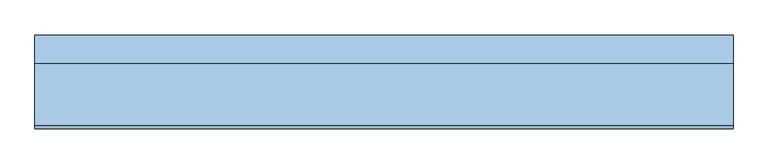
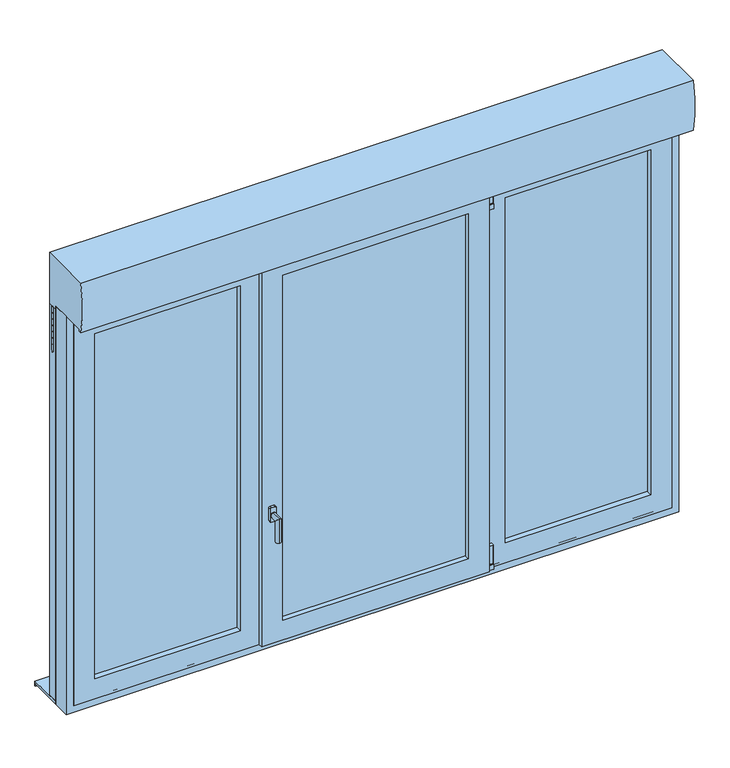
"""IFC4 building model written with IfcOpenShell, lengths in millimetres: window geometry, 8. OF1 + 2 Fixes à G et à D PVC-ALU : OF3 260X165 (LXH) cm + PB."""

from ifc_helpers import new_model, si_unit, point, frame, frame_2d, origin, place, context, project, spatial, polyline, circle_curve, ellipse_curve, trimmed, segment, composite_curve, outline, extrude, faceted_brep, source, transform, mapped, element, save
from ifc_brep_helpers import plane_surface, cylinder_surface, advanced_brep


def window_cf888731(model_context):
    return source(origin(), model_context, "Body", "SolidModel", [
        extrude(outline(composite_curve([segment(polyline([(2401.552, 450.596), (2401.552, 465.596), (2419.5583831, 465.596)]), True, "CONTINUOUS"), segment(trimmed(circle_curve(frame_2d((2419.5583831, 463.6023831)), 1.9936169), [point((2419.5583831, 465.596))], [point((2421.552, 463.6023831))], False, "CARTESIAN"), True, "CONTINUOUS"), segment(polyline([(2421.552, 463.6023831), (2421.552, 452.5636754)]), True, "CONTINUOUS"), segment(trimmed(circle_curve(frame_2d((2419.5843246, 452.5636754)), 1.9676754), [point((2421.552, 452.5636754))], [point((2419.5843246, 450.596))], False, "CARTESIAN"), True, "CONTINUOUS"), segment(polyline([(2419.5843246, 450.596), (2401.552, 450.596)]), True, "CONTINUOUS")], self_intersect=False)), frame((0.0, -115.881543, 0.0), z_axis=(0.0, 1.0, 0.0), x_axis=(0.0, 0.0, 1.0)), (0.0, 0.0, 1.0), 15.0),
        extrude(outline(composite_curve([segment(trimmed(circle_curve(frame_2d((458.3165562, -108.3911314)), 5.0), [point((453.3165562, -108.3911314))], [point((463.3165562, -108.3911314))], False, "CARTESIAN"), True, "CONTINUOUS"), segment(trimmed(circle_curve(frame_2d((458.3165562, -108.3911314)), 5.0), [point((463.3165562, -108.3911314))], [point((453.3165562, -108.3911314))], False, "CARTESIAN"), True, "CONTINUOUS")], self_intersect=False)), frame((0.0, 0.0, 2341.552), z_axis=(0.0, 0.0, 1.0), x_axis=(1.0, 0.0, 0.0)), (0.0, 0.0, 1.0), 60.0),
        extrude(outline(composite_curve([segment(polyline([(445.596, -100.8911314), (463.6378237, -100.8911314)]), True, "CONTINUOUS"), segment(trimmed(circle_curve(frame_2d((463.6378237, -102.8493076)), 1.9581763), [point((463.6378237, -100.8911314))], [point((465.596, -102.8493076))], False, "CARTESIAN"), True, "CONTINUOUS"), segment(polyline([(465.596, -102.8493076), (465.596, -113.8729539)]), True, "CONTINUOUS"), segment(trimmed(circle_curve(frame_2d((463.5778225, -113.8729539)), 2.0181775), [point((465.596, -113.8729539))], [point((463.5778225, -115.8911314))], False, "CARTESIAN"), True, "CONTINUOUS"), segment(polyline([(463.5778225, -115.8911314), (445.596, -115.8911314), (445.596, -100.8911314)]), True, "CONTINUOUS")], self_intersect=False)), frame((0.0, 0.0, 2347.2784618), z_axis=(0.0, 0.0, 1.0), x_axis=(1.0, 0.0, 0.0)), (0.0, 0.0, 1.0), 50.0),
        extrude(outline(composite_curve([segment(polyline([(2342.2784618, 465.8165562), (2342.2784618, 450.8165562), (2324.2877116, 450.8165562)]), True, "CONTINUOUS"), segment(trimmed(circle_curve(frame_2d((2324.2877116, 452.8258059)), 2.0092498), [point((2324.2877116, 450.8165562))], [point((2322.2784618, 452.8258059))], False, "CARTESIAN"), True, "CONTINUOUS"), segment(polyline([(2322.2784618, 452.8258059), (2322.2784618, 464.1663507)]), True, "CONTINUOUS"), segment(trimmed(circle_curve(frame_2d((2324.2521312, 463.8428867)), 2.0), [point((2322.2784618, 464.1663507))], [point((2323.9286672, 465.8165562))], False, "CARTESIAN"), True, "CONTINUOUS"), segment(polyline([(2323.9286672, 465.8165562), (2342.2784618, 465.8165562)]), True, "CONTINUOUS")], self_intersect=False)), frame((0.0, -115.881543, 0.0), z_axis=(0.0, 1.0, 0.0), x_axis=(0.0, 0.0, 1.0)), (0.0, 0.0, 1.0), 15.0),
        extrude(outline(composite_curve([segment(trimmed(circle_curve(frame_2d((458.3165562, -107.5530691)), 5.0), [point((453.3165562, -107.5530691))], [point((463.3165562, -107.5530691))], False, "CARTESIAN"), True, "CONTINUOUS"), segment(trimmed(circle_curve(frame_2d((458.3165562, -107.5530691)), 5.0), [point((463.3165562, -107.5530691))], [point((453.3165562, -107.5530691))], False, "CARTESIAN"), True, "CONTINUOUS")], self_intersect=False)), frame((0.0, 0.0, 848.448), z_axis=(0.0, 0.0, 1.0), x_axis=(1.0, 0.0, 0.0)), (0.0, 0.0, 1.0), 5.0),
        extrude(outline(composite_curve([segment(polyline([(848.448, 465.8165562), (848.448, 450.8165562), (830.4572498, 450.8165562)]), True, "CONTINUOUS"), segment(trimmed(circle_curve(frame_2d((830.4572498, 452.8258059)), 2.0092498), [point((830.4572498, 450.8165562))], [point((828.448, 452.8258059))], False, "CARTESIAN"), True, "CONTINUOUS"), segment(polyline([(828.448, 452.8258059), (828.448, 464.1663507)]), True, "CONTINUOUS"), segment(trimmed(circle_curve(frame_2d((830.4216694, 463.8428867)), 2.0), [point((828.448, 464.1663507))], [point((830.0982054, 465.8165562))], False, "CARTESIAN"), True, "CONTINUOUS"), segment(polyline([(830.0982054, 465.8165562), (848.448, 465.8165562)]), True, "CONTINUOUS")], self_intersect=False)), frame((0.0, -115.0434807, 0.0), z_axis=(0.0, 1.0, 0.0), x_axis=(0.0, 0.0, 1.0)), (0.0, 0.0, 1.0), 15.0),
        extrude(outline(composite_curve([segment(polyline([(445.596, -100.0530691), (463.6378237, -100.0530691)]), True, "CONTINUOUS"), segment(trimmed(circle_curve(frame_2d((463.6378237, -102.0112454)), 1.9581763), [point((463.6378237, -100.0530691))], [point((465.596, -102.0112454))], False, "CARTESIAN"), True, "CONTINUOUS"), segment(polyline([(465.596, -102.0112454), (465.596, -113.0348917)]), True, "CONTINUOUS"), segment(trimmed(circle_curve(frame_2d((463.5778225, -113.0348917)), 2.0181775), [point((465.596, -113.0348917))], [point((463.5778225, -115.0530691))], False, "CARTESIAN"), True, "CONTINUOUS"), segment(polyline([(463.5778225, -115.0530691), (445.596, -115.0530691), (445.596, -100.0530691)]), True, "CONTINUOUS")], self_intersect=False)), frame((0.0, 0.0, 853.448), z_axis=(0.0, 0.0, 1.0), x_axis=(1.0, 0.0, 0.0)), (0.0, 0.0, 1.0), 75.0),
        advanced_brep(
        [(-398.3690178, -129.3239543, 1399.4389305), (-413.3690178, -129.3239543, 1399.4389305), (-418.3690178, -129.3239543, 1394.4389305), (-418.3690178, -129.3239543, 1344.4389305), (-413.3690178, -129.3239543, 1339.4389305), (-398.3690178, -129.3239543, 1339.4389305), (-393.3690178, -129.3239543, 1344.4389305), (-393.3690178, -129.3239543, 1394.4389305), (-405.5918305, -129.3239543, 1377.2427654), (-405.5918305, -129.3239543, 1357.2427654), (-398.3690178, -117.4674689, 1399.4389305), (-393.3690178, -117.4674689, 1394.4389305), (-393.3690178, -117.4674689, 1344.4389305), (-398.3690178, -117.4674689, 1339.4389305), (-413.3690178, -117.4674689, 1339.4389305), (-418.3690178, -117.4674689, 1344.4389305), (-418.3690178, -117.4674689, 1394.4389305), (-413.3690178, -117.4674689, 1399.4389305), (-405.5918305, -133.0531938, 1357.2427654), (-405.5918305, -133.0531938, 1377.2427654), (-405.5918305, -173.0531938, 1377.2427654), (-405.5918305, -153.0531938, 1357.2427654), (-405.5918305, -173.0531938, 1277.2427654), (-405.5918305, -153.0531938, 1277.2427654)],
        [
            (0, 1),
            (1, 2, circle_curve(frame((-413.3690178, -129.3239543, 1394.4389305), z_axis=(0.0, -1.0, 0.0), x_axis=(-1.0, 0.0, 0.0)), 5.0)),
            (2, 3),
            (3, 4, circle_curve(frame((-413.3690178, -129.3239543, 1344.4389305), z_axis=(0.0, -1.0, 0.0), x_axis=(-1.0, 0.0, 0.0)), 5.0)),
            (4, 5),
            (5, 6, circle_curve(frame((-398.3690178, -129.3239543, 1344.4389305), z_axis=(0.0, -1.0, 0.0), x_axis=(-1.0, 0.0, 0.0)), 5.0)),
            (6, 7),
            (7, 0, circle_curve(frame((-398.3690178, -129.3239543, 1394.4389305), z_axis=(0.0, -1.0, 0.0), x_axis=(-1.0, 0.0, 0.0)), 5.0)),
            (8, 9, circle_curve(frame((-405.5918305, -129.3239543, 1367.2427654), z_axis=(0.0, 1.0, 0.0), x_axis=(0.0, 0.0, -1.0)), 10.0)),
            (9, 8, circle_curve(frame((-405.5918305, -129.3239543, 1367.2427654), z_axis=(0.0, 1.0, 0.0), x_axis=(0.0, 0.0, -1.0)), 10.0)),
            (10, 11, circle_curve(frame((-398.3690178, -117.4674689, 1394.4389305), z_axis=(0.0, 1.0, 0.0), x_axis=(-1.0, 0.0, 0.0)), 5.0)),
            (11, 12),
            (12, 13, circle_curve(frame((-398.3690178, -117.4674689, 1344.4389305), z_axis=(0.0, 1.0, 0.0), x_axis=(-1.0, 0.0, 0.0)), 5.0)),
            (13, 14),
            (14, 15, circle_curve(frame((-413.3690178, -117.4674689, 1344.4389305), z_axis=(0.0, 1.0, 0.0), x_axis=(-1.0, 0.0, 0.0)), 5.0)),
            (15, 16),
            (16, 17, circle_curve(frame((-413.3690178, -117.4674689, 1394.4389305), z_axis=(0.0, 1.0, 0.0), x_axis=(-1.0, 0.0, 0.0)), 5.0)),
            (17, 10),
            (7, 11),
            (10, 0),
            (6, 12),
            (5, 13),
            (4, 14),
            (3, 15),
            (2, 16),
            (1, 17),
            (18, 19, circle_curve(frame((-405.5918305, -133.0531938, 1367.2427654), z_axis=(0.0, -1.0, 0.0), x_axis=(0.0, 0.0, -1.0)), 10.0)),
            (19, 20),
            (20, 21, ellipse_curve(frame((-405.5918305, -163.0531938, 1367.2427654), z_axis=(0.0, 0.7071067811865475, 0.7071067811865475), x_axis=(0.0, 0.7071067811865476, -0.7071067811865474)), 14.1421356, 10.0)),
            (21, 18),
            (19, 18, circle_curve(frame((-405.5918305, -133.0531938, 1367.2427654), z_axis=(0.0, -1.0, 0.0), x_axis=(0.0, 0.0, -1.0)), 10.0)),
            (21, 20, ellipse_curve(frame((-405.5918305, -163.0531938, 1367.2427654), z_axis=(0.0, 0.7071067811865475, 0.7071067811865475), x_axis=(0.0, 0.7071067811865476, -0.7071067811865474)), 14.1421356, 10.0)),
            (22, 23, circle_curve(frame((-405.5918305, -163.0531938, 1277.2427654), z_axis=(0.0, 0.0, -1.0), x_axis=(0.0, 1.0, 0.0)), 10.0)),
            (23, 22, circle_curve(frame((-405.5918305, -163.0531938, 1277.2427654), z_axis=(0.0, 0.0, -1.0), x_axis=(0.0, 1.0, 0.0)), 10.0)),
            (20, 22),
            (23, 21),
            (18, 9),
            (8, 19),
        ],
        [
            plane_surface(frame((-403.3690178, -129.3239543, 1394.4389305), z_axis=(0.0, -1.0, 0.0), x_axis=(0.0, 0.0, -1.0))),
            plane_surface(frame((-403.3690178, -117.4674689, 1394.4389305), z_axis=(0.0, 1.0, 0.0), x_axis=(0.0, 0.0, 1.0))),
            cylinder_surface(frame((-398.3690178, -129.3239543, 1394.4389305), z_axis=(0.0, 1.0, 0.0), x_axis=(-1.0, 0.0, 0.0)), 5.0),
            plane_surface(frame((-393.3690178, -117.4674689, 1394.4389305), z_axis=(1.0, 0.0, 0.0), x_axis=(0.0, -1.0, 0.0))),
            cylinder_surface(frame((-398.3690178, -129.3239543, 1344.4389305), z_axis=(0.0, 1.0, 0.0), x_axis=(-1.0, 0.0, 0.0)), 5.0),
            plane_surface(frame((-398.3690178, -117.4674689, 1339.4389305), z_axis=(0.0, 0.0, -1.0), x_axis=(0.0, -1.0, 0.0))),
            cylinder_surface(frame((-413.3690178, -129.3239543, 1344.4389305), z_axis=(0.0, 1.0, 0.0), x_axis=(-1.0, 0.0, 0.0)), 5.0),
            plane_surface(frame((-418.3690178, -117.4674689, 1344.4389305), z_axis=(-1.0, 0.0, 0.0), x_axis=(0.0, -1.0, 0.0))),
            cylinder_surface(frame((-413.3690178, -129.3239543, 1394.4389305), z_axis=(0.0, 1.0, 0.0), x_axis=(-1.0, 0.0, 0.0)), 5.0),
            plane_surface(frame((-413.3690178, -117.4674689, 1399.4389305), z_axis=(0.0, 0.0, 1.0), x_axis=(0.0, -1.0, 0.0))),
            cylinder_surface(frame((-405.5918305, -133.0531938, 1367.2427654), z_axis=(0.0, 1.0, 0.0), x_axis=(0.0, 0.0, -1.0)), 10.0),
            plane_surface(frame((-393.3690178, -163.0531938, 1277.2427654), z_axis=(0.0, 0.0, -1.0), x_axis=(1.0, 0.0, 0.0))),
            cylinder_surface(frame((-405.5918305, -163.0531938, 1367.2427654), z_axis=(0.0, 0.0, 1.0), x_axis=(0.0, 1.0, 0.0)), 10.0),
            cylinder_surface(frame((-405.5918305, -129.3239543, 1367.2427654), z_axis=(0.0, 1.0, 0.0), x_axis=(0.0, 0.0, -1.0)), 10.0),
        ],
        [
            (0, [[1, 2, 3, 4, 5, 6, 7, 8], [9, 10]]),
            (1, [[11, 12, 13, 14, 15, 16, 17, 18]]),
            (2, [[-8, 19, -11, 20]]),
            (3, [[-7, 21, -12, -19]]),
            (4, [[-6, 22, -13, -21]]),
            (5, [[-5, 23, -14, -22]]),
            (6, [[-4, 24, -15, -23]]),
            (7, [[-3, 25, -16, -24]]),
            (8, [[-2, 26, -17, -25]]),
            (9, [[-1, -20, -18, -26]]),
            (10, [[27, 28, 29, 30]]),
            (10, [[-28, 31, -30, 32]]),
            (11, [[33, 34]]),
            (12, [[-29, 35, -34, 36]]),
            (12, [[-32, -36, -33, -35]]),
            (13, [[-27, 37, -9, 38]]),
            (13, [[-31, -38, -10, -37]]),
        ],
    ),
        faceted_brep([(-1200.0, -100.02, 2450.0), (-1200.0, -28.9, 2450.0), (-1200.0, -28.9, 800.0), (-1200.0, -100.02, 800.0), (1200.0, -28.9, 2450.0), (1200.0, -28.9, 800.0), (-1142.0983858, -28.9, 857.9016142), (1142.0983858, -28.9, 857.9016142), (1142.0983858, -28.9, 2392.0983858), (-1142.0983858, -28.9, 2392.0983858), (1200.0, -100.02, 800.0), (1200.0, -100.02, 2450.0), (-1163.424, -100.02, 2413.424), (1163.424, -100.02, 2413.424), (1163.424, -100.02, 836.576), (-1163.424, -100.02, 836.576), (-1163.424, -44.648, 2413.424), (-1163.424, -44.648, 836.576), (1163.424, -44.648, 836.576), (1163.424, -44.648, 2413.424), (-1142.0983858, -44.648, 2392.0983858), (1142.0983858, -44.648, 2392.0983858), (1142.0983858, -44.648, 857.9016142), (-1142.0983858, -44.648, 857.9016142)], [[[0, 1, 2, 3]], [[1, 4, 5, 2], [6, 7, 8, 9]], [[3, 2, 5, 10]], [[3, 10, 11, 0], [12, 13, 14, 15]], [[16, 12, 15, 17]], [[17, 15, 14, 18]], [[17, 18, 19, 16], [20, 21, 22, 23]], [[9, 20, 23, 6]], [[6, 23, 22, 7]], [[10, 5, 4, 11]], [[18, 14, 13, 19]], [[7, 22, 21, 8]], [[11, 4, 1, 0]], [[19, 13, 12, 16]], [[8, 21, 20, 9]]]),
        extrude(outline(polyline([(410.5594701, -28.9), (466.8856142, -28.9), (466.8856142, -44.648), (437.432, -44.648), (437.432, -100.0), (425.24, -100.0), (425.24, -44.648), (410.5594701, -44.648), (410.5594701, -28.9)])), frame((0.0, 0.0, 857.9016142), z_axis=(0.0, 0.0, 1.0), x_axis=(1.0, 0.0, 0.0)), (0.0, 0.0, 1.0), 1534.2),
        faceted_brep([(466.8856142, -44.648, 2392.0983858), (466.8856142, -28.9, 2392.0983858), (466.8856142, -28.9, 857.9016142), (466.8856142, -44.648, 857.9016142), (1142.1063858, -28.9, 2392.0983858), (1142.1063858, -28.9, 857.9016142), (519.4599508, -28.9, 910.4759508), (1089.5320492, -28.9, 910.4759508), (1089.5320492, -28.9, 2339.5240492), (519.4599508, -28.9, 2339.5240492), (1142.1063858, -44.648, 857.9016142), (437.432, -44.648, 2421.552), (1171.56, -44.648, 2421.552), (1171.56, -44.648, 828.448), (437.432, -44.648, 828.448), (1142.1063858, -44.648, 2392.0983858), (519.4599508, -50.213906, 910.4759508), (1089.5320492, -50.213906, 910.4759508), (1089.5320492, -50.213906, 2339.5240492), (519.4599508, -50.213906, 2339.5240492), (1171.56, -100.963906, 828.448), (1171.56, -100.963906, 2421.552), (437.432, -100.963906, 828.448), (437.432, -100.963906, 2421.552), (519.4599508, -100.963906, 2339.5240492), (1089.5320492, -100.963906, 2339.5240492), (1089.5320492, -100.963906, 910.4759508), (519.4599508, -100.963906, 910.4759508), (1089.5320492, -78.213906, 910.4759508), (1089.5320492, -78.213906, 2339.5240492), (519.4599508, -78.213906, 910.4759508), (519.4599508, -78.213906, 2339.5240492), (505.5664883, -50.213906, 896.5824883), (1103.4255117, -50.213906, 896.5824883), (1103.4255117, -50.213906, 2353.4175117), (505.5664883, -50.213906, 2353.4175117), (505.5664883, -54.213906, 2353.4175117), (505.5664883, -54.213906, 896.5824883), (1103.4255117, -54.213906, 2353.4175117), (1103.4255117, -54.213906, 896.5824883), (519.4599508, -54.213906, 910.4759508), (1089.5320492, -54.213906, 910.4759508), (1089.5320492, -54.213906, 2339.5240492), (519.4599508, -54.213906, 2339.5240492), (505.5664883, -78.213906, 2353.4175117), (1103.4255117, -78.213906, 2353.4175117), (1103.4255117, -78.213906, 896.5824883), (505.5664883, -78.213906, 896.5824883), (519.4599508, -74.213906, 910.4759508), (1089.5320492, -74.213906, 910.4759508), (1089.5320492, -74.213906, 2339.5240492), (519.4599508, -74.213906, 2339.5240492), (505.5664883, -74.213906, 896.5824883), (1103.4255117, -74.213906, 896.5824883), (1103.4255117, -74.213906, 2353.4175117), (505.5664883, -74.213906, 2353.4175117)], [[[0, 1, 2, 3]], [[1, 4, 5, 2], [6, 7, 8, 9]], [[3, 2, 5, 10]], [[11, 12, 13, 14], [3, 10, 15, 0]], [[10, 5, 4, 15]], [[6, 16, 17, 7]], [[7, 17, 18, 8]], [[9, 19, 16, 6]], [[20, 13, 12, 21]], [[22, 14, 13, 20]], [[11, 14, 22, 23]], [[22, 20, 21, 23], [24, 25, 26, 27]], [[28, 26, 25, 29]], [[30, 27, 26, 28]], [[31, 24, 27, 30]], [[32, 33, 34, 35], [19, 18, 17, 16]], [[35, 36, 37, 32]], [[36, 38, 39, 37], [40, 41, 42, 43]], [[32, 37, 39, 33]], [[44, 45, 46, 47], [30, 28, 29, 31]], [[33, 39, 38, 34]], [[40, 48, 49, 41]], [[41, 49, 50, 42]], [[43, 51, 48, 40]], [[52, 53, 54, 55], [51, 50, 49, 48]], [[55, 44, 47, 52]], [[52, 47, 46, 53]], [[53, 46, 45, 54]], [[15, 4, 1, 0]], [[8, 18, 19, 9]], [[21, 12, 11, 23]], [[29, 25, 24, 31]], [[34, 38, 36, 35]], [[42, 50, 51, 43]], [[54, 45, 44, 55]]]),
        extrude(outline(polyline([(1103.4, -50.213906), (1103.4, -54.213906), (505.5, -54.213906), (505.5, -50.213906), (1103.4, -50.213906)])), frame((0.0, 0.0, 896.5824883), z_axis=(0.0, 0.0, 1.0), x_axis=(1.0, 0.0, 0.0)), (0.0, 0.0, 1.0), 1456.8350233),
        extrude(outline(polyline([(1103.4, -74.213906), (1103.4, -78.213906), (505.5, -78.213906), (505.5, -74.213906), (1103.4, -74.213906)])), frame((0.0, 0.0, 896.5824883), z_axis=(0.0, 0.0, 1.0), x_axis=(1.0, 0.0, 0.0)), (0.0, 0.0, 1.0), 1456.8350233),
        extrude(outline(polyline([(-1103.4, -54.213906), (-1103.4, -50.213906), (-505.5, -50.213906), (-505.5, -54.213906), (-1103.4, -54.213906)])), frame((0.0, 0.0, 896.5824883), z_axis=(0.0, 0.0, 1.0), x_axis=(1.0, 0.0, 0.0)), (0.0, 0.0, 1.0), 1456.8350233),
        extrude(outline(polyline([(-1103.4, -78.213906), (-1103.4, -74.213906), (-505.5, -74.213906), (-505.5, -78.213906), (-1103.4, -78.213906)])), frame((0.0, 0.0, 896.5824883), z_axis=(0.0, 0.0, 1.0), x_axis=(1.0, 0.0, 0.0)), (0.0, 0.0, 1.0), 1456.8350233),
        extrude(outline(polyline([(-377.4, -100.019954), (-377.4, -96.019954), (377.5, -96.019954), (377.5, -100.019954), (-377.4, -100.019954)])), frame((0.0, 0.0, 896.5824883), z_axis=(0.0, 0.0, 1.0), x_axis=(1.0, 0.0, 0.0)), (0.0, 0.0, 1.0), 1456.8350233),
        extrude(outline(polyline([(-377.4, -72.9786213), (-377.4, -68.9786213), (377.5, -68.9786213), (377.5, -72.9786213), (-377.4, -72.9786213)])), frame((0.0, 0.0, 896.5824883), z_axis=(0.0, 0.0, 1.0), x_axis=(1.0, 0.0, 0.0)), (0.0, 0.0, 1.0), 1456.8350233),
        extrude(outline(polyline([(-377.4, -47.5821328), (-377.4, -41.5821328), (377.5, -41.5821328), (377.5, -47.5821328), (-377.4, -47.5821328)])), frame((0.0, 0.0, 896.5824883), z_axis=(0.0, 0.0, 1.0), x_axis=(1.0, 0.0, 0.0)), (0.0, 0.0, 1.0), 1456.8350233),
        extrude(outline(polyline([(-410.5594701, -28.9), (-410.5594701, -44.648), (-425.24, -44.648), (-425.24, -100.0), (-437.432, -100.0), (-437.432, -44.648), (-466.8856142, -44.648), (-466.8856142, -28.9), (-410.5594701, -28.9)])), frame((0.0, 0.0, 857.9016142), z_axis=(0.0, 0.0, 1.0), x_axis=(1.0, 0.0, 0.0)), (0.0, 0.0, 1.0), 1534.2),
        faceted_brep([(-466.8856142, -28.9, 2392.0983858), (-466.8856142, -44.648, 2392.0983858), (-466.8856142, -44.648, 857.9016142), (-466.8856142, -28.9, 857.9016142), (-437.432, -44.648, 828.448), (-1171.56, -44.648, 828.448), (-1171.56, -44.648, 2421.552), (-437.432, -44.648, 2421.552), (-1142.1063858, -44.648, 2392.0983858), (-1142.1063858, -44.648, 857.9016142), (-1142.1063858, -28.9, 857.9016142), (-1142.1063858, -28.9, 2392.0983858), (-519.4599508, -28.9, 2339.5240492), (-1089.5320492, -28.9, 2339.5240492), (-1089.5320492, -28.9, 910.4759508), (-519.4599508, -28.9, 910.4759508), (-1089.5320492, -50.213906, 910.4759508), (-1089.5320492, -50.213906, 2339.5240492), (-519.4599508, -50.213906, 910.4759508), (-519.4599508, -50.213906, 2339.5240492), (-437.432, -100.963906, 828.448), (-1171.56, -100.963906, 828.448), (-1171.56, -100.963906, 2421.552), (-437.432, -100.963906, 2421.552), (-519.4599508, -100.963906, 910.4759508), (-1089.5320492, -100.963906, 910.4759508), (-1089.5320492, -100.963906, 2339.5240492), (-519.4599508, -100.963906, 2339.5240492), (-519.4599508, -78.213906, 910.4759508), (-1089.5320492, -78.213906, 910.4759508), (-1089.5320492, -78.213906, 2339.5240492), (-519.4599508, -78.213906, 2339.5240492), (-505.5664883, -50.213906, 2353.4175117), (-1103.4255117, -50.213906, 2353.4175117), (-1103.4255117, -50.213906, 896.5824883), (-505.5664883, -50.213906, 896.5824883), (-505.5664883, -54.213906, 2353.4175117), (-505.5664883, -54.213906, 896.5824883), (-1103.4255117, -54.213906, 896.5824883), (-1103.4255117, -54.213906, 2353.4175117), (-519.4599508, -54.213906, 2339.5240492), (-1089.5320492, -54.213906, 2339.5240492), (-1089.5320492, -54.213906, 910.4759508), (-519.4599508, -54.213906, 910.4759508), (-505.5664883, -78.213906, 896.5824883), (-1103.4255117, -78.213906, 896.5824883), (-1103.4255117, -78.213906, 2353.4175117), (-505.5664883, -78.213906, 2353.4175117), (-1089.5320492, -74.213906, 910.4759508), (-1089.5320492, -74.213906, 2339.5240492), (-519.4599508, -74.213906, 910.4759508), (-519.4599508, -74.213906, 2339.5240492), (-505.5664883, -74.213906, 2353.4175117), (-1103.4255117, -74.213906, 2353.4175117), (-1103.4255117, -74.213906, 896.5824883), (-505.5664883, -74.213906, 896.5824883)], [[[0, 1, 2, 3]], [[4, 5, 6, 7], [1, 8, 9, 2]], [[3, 2, 9, 10]], [[3, 10, 11, 0], [12, 13, 14, 15]], [[10, 9, 8, 11]], [[16, 14, 13, 17]], [[18, 15, 14, 16]], [[19, 12, 15, 18]], [[4, 20, 21, 5]], [[5, 21, 22, 6]], [[23, 20, 4, 7]], [[23, 22, 21, 20], [24, 25, 26, 27]], [[24, 28, 29, 25]], [[25, 29, 30, 26]], [[27, 31, 28, 24]], [[32, 33, 34, 35], [18, 16, 17, 19]], [[36, 32, 35, 37]], [[37, 35, 34, 38]], [[37, 38, 39, 36], [40, 41, 42, 43]], [[44, 45, 46, 47], [31, 30, 29, 28]], [[38, 34, 33, 39]], [[48, 42, 41, 49]], [[50, 43, 42, 48]], [[51, 40, 43, 50]], [[52, 53, 54, 55], [50, 48, 49, 51]], [[47, 52, 55, 44]], [[44, 55, 54, 45]], [[45, 54, 53, 46]], [[11, 8, 1, 0]], [[17, 13, 12, 19]], [[6, 22, 23, 7]], [[26, 30, 31, 27]], [[39, 33, 32, 36]], [[49, 41, 40, 51]], [[46, 53, 52, 47]]]),
        faceted_brep([(-385.6166701, -100.019954, 2361.6086701), (-385.6166701, -48.2039543, 2361.6086701), (-385.6166701, -48.2039543, 888.3913299), (-385.6166701, -100.019954, 888.3913299), (-410.5594701, -48.2039543, 2386.5514701), (-410.5594701, -48.2039543, 863.4485299), (410.6261299, -48.2039543, 863.4485299), (410.6261299, -48.2039543, 2386.5514701), (385.6833299, -48.2039543, 2361.6086701), (385.6833299, -48.2039543, 888.3913299), (385.6833299, -100.019954, 888.3913299), (385.6833299, -100.019954, 2361.6086701), (377.4921714, -100.019954, 2353.4175117), (377.4921714, -100.019954, 896.5824883), (-377.4255117, -100.019954, 896.5824883), (-377.4255117, -100.019954, 2353.4175117), (-410.5594701, -28.7475756, 2386.5514701), (-410.5594701, -28.7475756, 863.4485299), (410.6261299, -28.7475756, 2386.5514701), (410.6261299, -28.7475756, 863.4485299), (-359.3473386, -28.7475756, 2335.3393386), (-359.3473386, -28.7475756, 914.6606614), (359.4139984, -28.7475756, 914.6606614), (359.4139984, -28.7475756, 2335.3393386), (-359.3473386, -41.5821328, 2335.3393386), (-359.3473386, -41.5821328, 914.6606614), (-377.4255117, -41.5821328, 2353.4175117), (-377.4255117, -41.5821328, 896.5824883), (377.4921714, -41.5821328, 896.5824883), (377.4921714, -41.5821328, 2353.4175117), (359.4139984, -41.5821328, 2335.3393386), (359.4139984, -41.5821328, 914.6606614), (-360.2054041, -47.5821328, 2336.1974041), (-360.2054041, -68.9786213, 2336.1974041), (-360.2054041, -68.9786213, 913.8025959), (-360.2054041, -47.5821328, 913.8025959), (-377.4255117, -68.9786213, 2353.4175117), (-377.4255117, -68.9786213, 896.5824883), (377.4921714, -68.9786213, 896.5824883), (377.4921714, -68.9786213, 2353.4175117), (360.2720639, -68.9786213, 2336.1974041), (360.2720639, -68.9786213, 913.8025959), (360.2720639, -47.5821328, 913.8025959), (377.4921714, -47.5821328, 2353.4175117), (377.4921714, -47.5821328, 896.5824883), (-377.4255117, -47.5821328, 896.5824883), (-377.4255117, -47.5821328, 2353.4175117), (360.2720639, -47.5821328, 2336.1974041), (-363.5320492, -72.9786213, 2339.5240492), (-363.5320492, -96.019954, 2339.5240492), (-363.5320492, -96.019954, 910.4759508), (-363.5320492, -72.9786213, 910.4759508), (-377.4255117, -96.019954, 2353.4175117), (-377.4255117, -96.019954, 896.5824883), (377.4921714, -96.019954, 896.5824883), (377.4921714, -96.019954, 2353.4175117), (363.5987089, -96.019954, 2339.5240492), (363.5987089, -96.019954, 910.4759508), (363.5987089, -72.9786213, 910.4759508), (377.4921714, -72.9786213, 2353.4175117), (377.4921714, -72.9786213, 896.5824883), (-377.4255117, -72.9786213, 896.5824883), (-377.4255117, -72.9786213, 2353.4175117), (363.5987089, -72.9786213, 2339.5240492)], [[[0, 1, 2, 3]], [[4, 5, 6, 7], [8, 9, 2, 1]], [[3, 2, 9, 10]], [[0, 3, 10, 11], [12, 13, 14, 15]], [[4, 16, 17, 5]], [[18, 19, 17, 16], [20, 21, 22, 23]], [[5, 17, 19, 6]], [[20, 24, 25, 21]], [[26, 27, 28, 29], [30, 31, 25, 24]], [[21, 25, 31, 22]], [[32, 33, 34, 35]], [[36, 37, 38, 39], [40, 41, 34, 33]], [[35, 34, 41, 42]], [[43, 44, 45, 46], [32, 35, 42, 47]], [[48, 49, 50, 51]], [[52, 53, 54, 55], [56, 57, 50, 49]], [[51, 50, 57, 58]], [[59, 60, 61, 62], [48, 51, 58, 63]], [[52, 15, 14, 53]], [[53, 14, 13, 54]], [[26, 46, 45, 27]], [[27, 45, 44, 28]], [[36, 62, 61, 37]], [[37, 61, 60, 38]], [[58, 57, 56, 63]], [[54, 13, 12, 55]], [[10, 9, 8, 11]], [[6, 19, 18, 7]], [[22, 31, 30, 23]], [[28, 44, 43, 29]], [[42, 41, 40, 47]], [[38, 60, 59, 39]], [[11, 8, 1, 0]], [[7, 18, 16, 4]], [[23, 30, 24, 20]], [[47, 40, 33, 32]], [[63, 56, 49, 48]], [[55, 12, 15, 52]], [[29, 43, 46, 26]], [[39, 59, 62, 36]]]),
        faceted_brep([(445.596, -100.0434807, 828.448), (445.596, -119.3239543, 828.448), (-445.56, -119.3239543, 828.448), (-445.56, -100.0434807, 828.448), (-445.56, -119.3239543, 2421.552), (-445.56, -100.0434807, 2421.552), (445.596, -119.3239543, 2421.552), (363.3945043, -119.3239543, 2339.3505043), (363.3945043, -119.3239543, 910.6494957), (-363.3585043, -119.3239543, 910.6494957), (-363.3585043, -119.3239543, 2339.3505043), (445.596, -100.0434807, 2421.552), (425.276, -100.0434807, 848.768), (425.276, -100.0434807, 2401.232), (-425.24, -100.0434807, 2401.232), (-425.24, -100.0434807, 848.768), (363.3945043, -100.019954, 910.6494957), (-363.3585043, -100.019954, 910.6494957), (-363.3585043, -100.019954, 2339.3505043), (385.6526701, -100.019954, 2361.6086701), (385.6526701, -100.019954, 888.3913299), (-385.6166701, -100.019954, 888.3913299), (-385.6166701, -100.019954, 2361.6086701), (363.3945043, -100.019954, 2339.3505043), (385.6526701, -48.2039543, 888.3913299), (-385.6166701, -48.2039543, 888.3913299), (-385.6166701, -48.2039543, 2361.6086701), (416.1423858, -48.2039543, 2392.0983858), (416.1423858, -48.2039543, 857.9016142), (-416.1063858, -48.2039543, 857.9016142), (-416.1063858, -48.2039543, 2392.0983858), (385.6526701, -48.2039543, 2361.6086701), (416.1423858, -44.648, 857.9016142), (-416.1063858, -44.648, 857.9016142), (-416.1063858, -44.648, 2392.0983858), (425.276, -44.648, 2401.232), (425.276, -44.648, 848.768), (-425.24, -44.648, 848.768), (-425.24, -44.648, 2401.232), (416.1423858, -44.648, 2392.0983858)], [[[0, 1, 2, 3]], [[3, 2, 4, 5]], [[1, 6, 4, 2], [7, 8, 9, 10]], [[11, 0, 3, 5], [12, 13, 14, 15]], [[8, 16, 17, 9]], [[9, 17, 18, 10]], [[19, 20, 21, 22], [16, 23, 18, 17]], [[20, 24, 25, 21]], [[21, 25, 26, 22]], [[27, 28, 29, 30], [24, 31, 26, 25]], [[28, 32, 33, 29]], [[29, 33, 34, 30]], [[35, 36, 37, 38], [32, 39, 34, 33]], [[36, 12, 15, 37]], [[37, 15, 14, 38]], [[11, 6, 1, 0]], [[7, 23, 16, 8]], [[19, 31, 24, 20]], [[27, 39, 32, 28]], [[35, 13, 12, 36]], [[5, 4, 6, 11]], [[10, 18, 23, 7]], [[22, 26, 31, 19]], [[30, 34, 39, 27]], [[38, 14, 13, 35]]]),
        extrude(outline(composite_curve([segment(polyline([(-186.3991192, 2440.3409737), (-197.3316724, 2440.3409737)]), True, "CONTINUOUS"), segment(trimmed(circle_curve(frame_2d((189.1050523, 2543.6204869)), 400.0), [point((-197.3316724, 2440.3409737))], [point((-197.3316724, 2646.9))], False, "CARTESIAN"), True, "CONTINUOUS"), segment(polyline([(-197.3316724, 2646.9), (13.0999994, 2646.9), (13.0999994, 2436.0216226), (-4.9499979, 2436.0216226), (-4.9499979, 2434.2216225), (-2.7215215, 2434.2216225), (-2.7215215, 2409.9791617), (-4.9499979, 2409.9791617), (-4.9499979, 2408.1791616), (-2.7215215, 2408.1791616), (-2.7215215, 2383.9367008), (-4.9499979, 2383.9367008), (-4.9499979, 2382.1367006), (-2.7215215, 2382.1367006), (-2.7215215, 2357.8942398), (-4.9499979, 2357.8942398), (-4.9499979, 2356.0942397), (-2.7215215, 2356.0942397), (-2.7215215, 2331.8517789), (-4.9499979, 2331.8517789), (-4.9499979, 2330.0517788), (-2.7215215, 2330.0517788), (-2.7215215, 2305.809318), (-4.9499979, 2305.809318), (-4.9499979, 2304.0093179), (-2.7215215, 2304.0093179), (-2.7215215, 2279.7668571), (-4.9499979, 2279.7668571), (-4.9499979, 2277.966857), (-2.7215215, 2277.966857), (-2.7215215, 2253.7243961), (-4.9499979, 2253.7243961), (-4.9499979, 2251.9243963), (-3.044091, 2251.9243963), (-3.044091, 2248.977424), (-6.4, 2245.6232688), (-9.8999992, 2248.9774251), (-9.8999992, 2251.9243963), (-7.7499979, 2251.9243963), (-7.7499979, 2253.7243961), (-9.9999979, 2253.7243961), (-9.9999979, 2277.9668572), (-7.7499979, 2277.9668572), (-7.7499979, 2279.7668571), (-9.9999979, 2279.7668571), (-9.9999979, 2304.0093181), (-7.7499979, 2304.0093181), (-7.7499979, 2305.809318), (-9.9999979, 2305.809318), (-9.9999979, 2330.051779), (-7.7499979, 2330.051779), (-7.7499979, 2331.8517789), (-9.9999979, 2331.8517789), (-9.9999979, 2356.09424), (-7.7499979, 2356.09424), (-7.7499979, 2357.8942398), (-9.9999979, 2357.8942398), (-9.9999979, 2382.1367009), (-7.7499979, 2382.1367009), (-7.7499979, 2383.9367008), (-9.9999979, 2383.9367008), (-9.9999979, 2408.1791618), (-7.7499979, 2408.1791618), (-7.7499979, 2409.9791617), (-9.9999979, 2409.9791617), (-9.9999979, 2434.2216227), (-7.7499979, 2434.2216227), (-7.7499979, 2436.0216226), (-28.9, 2436.0216226), (-28.9, 2450.0), (-186.3991192, 2450.0), (-186.3991192, 2440.3409737)]), True, "CONTINUOUS")], self_intersect=False)), frame((-1200.0, 0.0, 0.0), z_axis=(1.0, 0.0, 0.0), x_axis=(0.0, 1.0, 0.0)), (0.0, 0.0, 1.0), 2400.0),
        extrude(outline(polyline([(110.0, 800.0), (-28.9, 800.0), (-28.9, 813.0), (113.0, 809.772555), (113.0, 790.0), (110.0, 790.0), (110.0, 800.0)])), frame((-1200.0, 0.0, 0.0), z_axis=(1.0, 0.0, 0.0), x_axis=(0.0, 1.0, 0.0)), (0.0, 0.0, 1.0), 2400.0),
        extrude(outline(polyline([(-1199.0, 13.0999994), (-1199.0, 2.0999994), (-1179.0, 2.0999994), (-1179.0, -0.9000006), (-1199.0, -0.9000006), (-1199.0, -11.9000006), (-1179.0, -11.9000006), (-1179.0, -14.9000006), (-1199.0, -14.9000006), (-1199.0, -28.9000006), (-1200.0, -28.9000006), (-1200.0, 13.0999994), (-1199.0, 13.0999994)])), frame((0.0, 0.0, 813.0), z_axis=(0.0, 0.0, 1.0), x_axis=(1.0, 0.0, 0.0)), (0.0, 0.0, 1.0), 1623.0216226),
        extrude(outline(polyline([(1199.0, 13.0999994), (1200.0, 13.0999994), (1200.0, -28.9000006), (1199.0, -28.9000006), (1199.0, -14.9000006), (1179.0, -14.9000006), (1179.0, -11.9000006), (1199.0, -11.9000006), (1199.0, -0.9000006), (1179.0, -0.9000006), (1179.0, 2.0999994), (1199.0, 2.0999994), (1199.0, 13.0999994)])), frame((0.0, 0.0, 813.0), z_axis=(0.0, 0.0, 1.0), x_axis=(1.0, 0.0, 0.0)), (0.0, 0.0, 1.0), 1623.0216226),
    ])


if __name__ == "__main__":
    model = new_model("IFC4")
    model_context = context("Model", 3, world=origin())
    ifc_project = project(units=[si_unit("LENGTHUNIT", "METRE", prefix="MILLI")], contexts=[model_context])
    site = spatial("IfcSite", under=ifc_project)
    building = spatial("IfcBuilding", under=site)
    placement = place(None, origin())
    window_shape = window_cf888731(model_context)
    element("IfcWindow", 1, ObjectType="8. OF1 + 2 Fixes à G et à D PVC-ALU : OF3 260X165 (LXH) cm + PB", at=placement, inside=building, context=model_context, shape_type="MappedRepresentation", body=[
        mapped(window_shape, transform((0.0, 0.0, 0.0), x_axis=(1.0, 0.0, 0.0), y_axis=(0.0, 1.0, 0.0), z_axis=(0.0, 0.0, 1.0))),
    ])
    save(model, "model.ifc")
